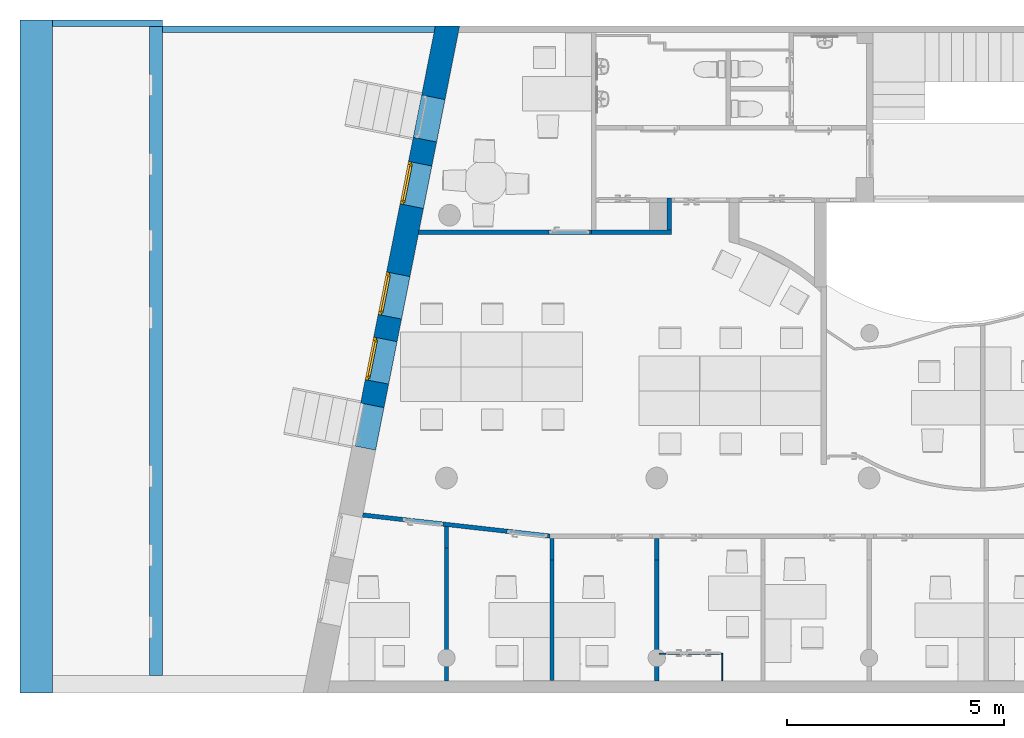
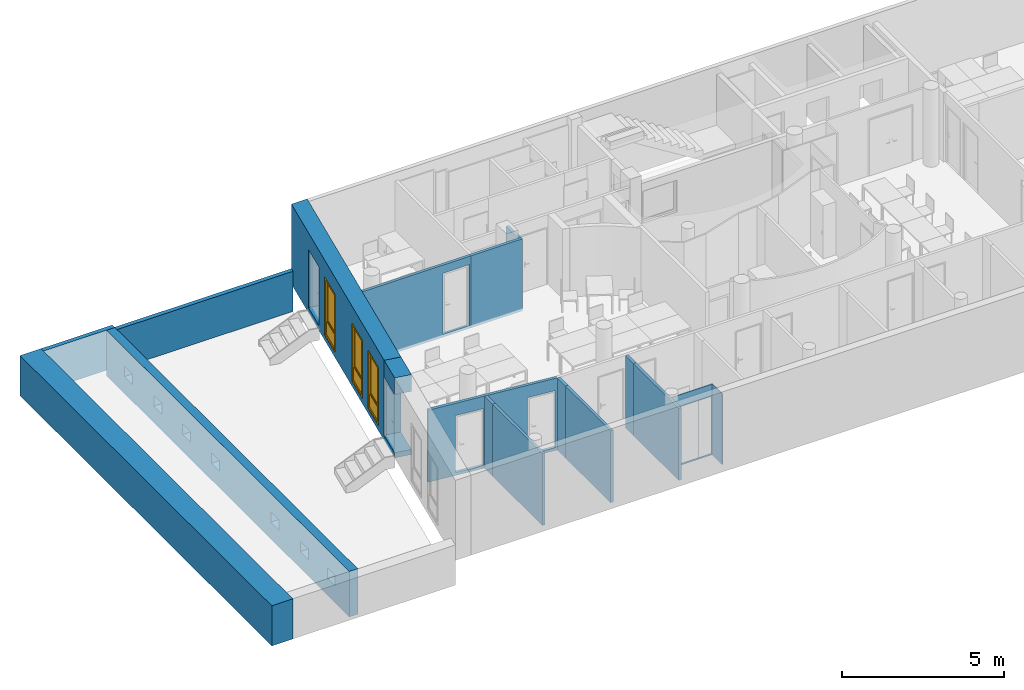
"""IFC4 building model written with IfcOpenShell, lengths in metres."""

from ifc_helpers import new_model, entity, si_unit, converted_unit, derived_unit, frame, frame_2d, origin, origin_with_axes, place, context, subcontext, project, spatial, polyline, rectangle, outline, extrude, closed_shell, open_shell, surface_model, source, transform, mapped, material, layer, layer_set, layer_usage, type_object, element, fill, save


model = new_model("IFC4")

# Units and contexts
model_context = context("Model", 3, precision=1e-05, world=origin())
body_context = subcontext(model_context, "Body", "Model", "MODEL_VIEW")
ifc_project = project(units=[si_unit("LENGTHUNIT", "METRE"), si_unit("AREAUNIT", "SQUARE_METRE"), si_unit("VOLUMEUNIT", "CUBIC_METRE"), si_unit("MASSUNIT", "GRAM", prefix="KILO"), converted_unit("PLANEANGLEUNIT", "DEGREE", entity("IfcPlaneAngleMeasure", 0.0174532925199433), si_unit("PLANEANGLEUNIT", "RADIAN"), dimensions=[0, 0, 0, 0, 0, 0, 0]), derived_unit("THERMALTRANSMITTANCEUNIT", [(si_unit("POWERUNIT", "WATT"), 1), (si_unit("THERMODYNAMICTEMPERATUREUNIT", "KELVIN"), -1), (si_unit("LENGTHUNIT", "METRE"), -2)]), derived_unit("VOLUMETRICFLOWRATEUNIT", [(si_unit("LENGTHUNIT", "METRE"), 3), (converted_unit("TIMEUNIT", "hour", entity("IfcTimeMeasure", 3600.0), si_unit("TIMEUNIT", "SECOND"), dimensions=[0, 0, 1, 0, 0, 0, 0]), -1), (si_unit("LENGTHUNIT", "METRE"), -1)])], contexts=[model_context])

# Building, storeys
building_placement = place(None, origin())
building = spatial("IfcBuilding", under=ifc_project, at=building_placement, Name="HABITATGE PLURIFAMILIAR", CompositionType="ELEMENT")
storey_1_placement = place(building_placement, frame((0.0, 0.0, 6.25)))
storey_1 = spatial("IfcBuildingStorey", under=building, at=storey_1_placement, Name="PLANTA PRIMERA", CompositionType="ELEMENT", Elevation=6.25)
storey_2_placement = place(storey_1_placement, frame((0.0, 0.0, 3.35)))
storey_2 = spatial("IfcBuildingStorey", under=storey_1, at=storey_2_placement, Name="NOU", CompositionType="PARTIAL")

# Walls
ifc_material_1 = material()
ifc_layer_1 = layer(ifc_material_1, 0.100000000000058)
ifc_layer_set_1 = layer_set([ifc_layer_1])
ifc_layer_usage_1 = layer_usage(ifc_layer_set_1, "AXIS2", "POSITIVE", 0.0)
wall_1_placement = place(storey_2_placement, frame((406.176984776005, 23.5194598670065, -3.45), z_axis=(0.0, 0.0, 1.0), x_axis=(0.0, 1.0, 0.0)))
element("IfcWall", 1, at=wall_1_placement, inside=storey_2, material=ifc_layer_usage_1, Name="Envans P1", context=body_context, shape_type="SweptSolid", body=[
    extrude(rectangle(XDim=0.737769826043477, YDim=0.100000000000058, at=frame_2d((0.368884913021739, 0.0500000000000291), x_axis=(1.0, 0.0))), origin_with_axes(), (0.0, 0.0, 1.0), 2.71),
])
ifc_material_2 = material()
ifc_layer_2 = layer(ifc_material_2, 0.1)
ifc_layer_set_2 = layer_set([ifc_layer_2])
ifc_layer_usage_2 = layer_usage(ifc_layer_set_2, "AXIS2", "POSITIVE", 0.0)
wall_2_placement = place(storey_2_placement, frame((404.336617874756, 23.4194598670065, -3.45)))
element("IfcWall", 2, at=wall_2_placement, inside=storey_2, material=ifc_layer_usage_2, Name="Envans P1", context=body_context, shape_type="SweptSolid", body=[
    extrude(rectangle(XDim=1.84036690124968, YDim=0.1, at=frame_2d((0.920183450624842, 0.05), x_axis=(1.0, 0.0))), origin_with_axes(), (0.0, 0.0, 1.0), 2.71),
])
ifc_material_3 = material()
ifc_layer_3 = layer(ifc_material_3, 0.75)
ifc_layer_set_3 = layer_set([ifc_layer_3])
ifc_layer_usage_3 = layer_usage(ifc_layer_set_3, "AXIS2", "POSITIVE", 0.0)
wall_3_placement = place(storey_2_placement, frame((391.149713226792, 28.3638565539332, -4.38), z_axis=(0.0, 0.0, 1.0), x_axis=(0.0, -1.0, 0.0)))
element("IfcWall", 3, at=wall_3_placement, inside=storey_2, material=ifc_layer_usage_3, Name="Envans P1", context=body_context, shape_type="SweptSolid", body=[
    extrude(rectangle(XDim=15.5232444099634, YDim=0.75, at=frame_2d((7.76162220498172, 0.375), x_axis=(1.0, 0.0))), origin_with_axes(), (0.0, 0.0, 1.0), 1.51),
])

# Wall, openings
ifc_material_4 = material()
ifc_layer_4 = layer(ifc_material_4, 0.3)
ifc_layer_set_4 = layer_set([ifc_layer_4])
ifc_layer_usage_4 = layer_usage(ifc_layer_set_4, "AXIS2", "POSITIVE", 0.0)
wall_4_placement = place(storey_2_placement, frame((394.139778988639, 28.2138565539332, -4.58), z_axis=(0.0, 0.0, 1.0), x_axis=(0.0, -1.0, 0.0)))
wall_4 = element("IfcWall", 4, at=wall_4_placement, inside=storey_2, material=ifc_layer_usage_4, Name="Envans P1", context=body_context, shape_type="SweptSolid", body=[
    extrude(rectangle(XDim=14.9732444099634, YDim=0.3, at=frame_2d((7.48662220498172, 0.15), x_axis=(1.0, 0.0))), origin_with_axes(), (0.0, 0.0, 1.0), 1.71),
])
opening_1_placement = place(wall_4_placement, frame((4.69138736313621, 0.0, 0.63), z_axis=(0.0, 1.0, 0.0), x_axis=(0.0, 0.0, 1.0)))
element("IfcOpeningElement", 5, at=opening_1_placement, cuts=wall_4, Name="Vano de Finestra P1", ObjectType="Opening", context=body_context, shape_type="SweptSolid", body=[
    extrude(outline(polyline([(0.4, 0.49), (0.4, 0.0), (0.0, 0.0), (0.0, 0.49), (0.4, 0.49)])), origin_with_axes(), (0.0, 0.0, 1.0), 0.3),
])
opening_2_placement = place(wall_4_placement, frame((2.93138736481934, 0.0, 0.63), z_axis=(0.0, 1.0, 0.0), x_axis=(0.0, 0.0, 1.0)))
element("IfcOpeningElement", 6, at=opening_2_placement, cuts=wall_4, Name="Vano de Finestra P1", ObjectType="Opening", context=body_context, shape_type="SweptSolid", body=[
    extrude(outline(polyline([(0.4, 0.49), (0.4, 0.0), (0.0, 0.0), (0.0, 0.49), (0.4, 0.49)])), origin_with_axes(), (0.0, 0.0, 1.0), 0.3),
])
opening_3_placement = place(wall_4_placement, frame((6.47138736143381, 0.0, 0.63), z_axis=(0.0, 1.0, 0.0), x_axis=(0.0, 0.0, 1.0)))
element("IfcOpeningElement", 7, at=opening_3_placement, cuts=wall_4, Name="Vano de Finestra P1", ObjectType="Opening", context=body_context, shape_type="SweptSolid", body=[
    extrude(outline(polyline([(0.4, 0.49), (0.4, 0.0), (0.0, 0.0), (0.0, 0.49), (0.4, 0.49)])), origin_with_axes(), (0.0, 0.0, 1.0), 0.3),
])
opening_4_placement = place(wall_4_placement, frame((1.10138736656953, 0.0, 0.63), z_axis=(0.0, 1.0, 0.0), x_axis=(0.0, 0.0, 1.0)))
element("IfcOpeningElement", 8, at=opening_4_placement, cuts=wall_4, Name="Vano de Finestra P1", ObjectType="Opening", context=body_context, shape_type="SweptSolid", body=[
    extrude(outline(polyline([(0.4, 0.49), (0.4, 0.0), (0.0, 0.0), (0.0, 0.49), (0.4, 0.49)])), origin_with_axes(), (0.0, 0.0, 1.0), 0.3),
])
opening_5_placement = place(wall_4_placement, frame((10.1313873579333, 0.0, 0.63), z_axis=(0.0, 1.0, 0.0), x_axis=(0.0, 0.0, 1.0)))
element("IfcOpeningElement", 9, at=opening_5_placement, cuts=wall_4, Name="Vano de Finestra P1", ObjectType="Opening", context=body_context, shape_type="SweptSolid", body=[
    extrude(outline(polyline([(0.4, 0.49), (0.4, 0.0), (0.0, 0.0), (0.0, 0.49), (0.4, 0.49)])), origin_with_axes(), (0.0, 0.0, 1.0), 0.3),
])
opening_6_placement = place(wall_4_placement, frame((11.9520491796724, 0.0, 0.63), z_axis=(0.0, 1.0, 0.0), x_axis=(0.0, 0.0, 1.0)))
element("IfcOpeningElement", 10, at=opening_6_placement, cuts=wall_4, Name="Vano de Finestra P1", ObjectType="Opening", context=body_context, shape_type="SweptSolid", body=[
    extrude(outline(polyline([(0.4, 0.49), (0.4, 0.0), (0.0, 0.0), (0.0, 0.49), (0.4, 0.49)])), origin_with_axes(), (0.0, 0.0, 1.0), 0.3),
])
opening_7_placement = place(wall_4_placement, frame((13.6120491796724, 0.0, 0.63), z_axis=(0.0, 1.0, 0.0), x_axis=(0.0, 0.0, 1.0)))
element("IfcOpeningElement", 11, at=opening_7_placement, cuts=wall_4, Name="Vano de Finestra P1", ObjectType="Opening", context=body_context, shape_type="SweptSolid", body=[
    extrude(outline(polyline([(0.4, 0.49), (0.4, 0.0), (0.0, 0.0), (0.0, 0.49), (0.4, 0.49)])), origin_with_axes(), (0.0, 0.0, 1.0), 0.3),
])

# Walls
ifc_material_5 = material()
ifc_layer_5 = layer(ifc_material_5, 0.15)
ifc_layer_set_5 = layer_set([ifc_layer_5])
ifc_layer_usage_5 = layer_usage(ifc_layer_set_5, "AXIS2", "POSITIVE", 0.0)
wall_5_placement = place(storey_2_placement, frame((391.899713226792, 28.2138565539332, -4.38)))
element("IfcWall", 12, at=wall_5_placement, inside=storey_2, material=ifc_layer_usage_5, Name="Envans P1", context=body_context, shape_type="SweptSolid", body=[
    extrude(rectangle(XDim=2.54006576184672, YDim=0.15, at=frame_2d((1.27003288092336, 0.075), x_axis=(1.0, 0.0))), origin_with_axes(), (0.0, 0.0, 1.0), 1.51),
])
ifc_material_6 = material()
ifc_layer_6 = layer(ifc_material_6, 0.15)
ifc_layer_set_6 = layer_set([ifc_layer_6])
ifc_layer_usage_6 = layer_usage(ifc_layer_set_6, "AXIS2", "POSITIVE", 0.0)
wall_6_placement = place(storey_2_placement, frame((400.729735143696, 28.22824790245, -4.38), z_axis=(0.0, 0.0, 1.0), x_axis=(-1.0, 0.0, 0.0)))
element("IfcWall", 13, at=wall_6_placement, inside=storey_2, material=ifc_layer_usage_6, Name="Envans P1", context=body_context, shape_type="SweptSolid", body=[
    extrude(outline(polyline([(-6.28995615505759, -0.15), (0.0, -0.15), (0.0, 0.0), (-6.26023727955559, 0.0), (-6.28995615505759, -0.15)])), frame((6.28995615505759, 0.15, 0.0), z_axis=(0.0, 0.0, 1.0), x_axis=(1.0, 0.0, 0.0)), (0.0, 0.0, 1.0), 1.51),
])

# Wall, openings, doors
ifc_material_7 = material()
ifc_layer_7 = layer(ifc_material_7, 0.549999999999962)
ifc_layer_set_7 = layer_set([ifc_layer_7])
ifc_layer_usage_7 = layer_usage(ifc_layer_set_7, "AXIS2", "POSITIVE", 0.0)
wall_7_placement = place(storey_2_placement, frame((400.729735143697, 28.22824790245, -3.45), z_axis=(0.0, 0.0, 1.0), x_axis=(-0.194348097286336, -0.980932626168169, 0.0)))
wall_7 = element("IfcWall", 14, at=wall_7_placement, inside=storey_2, material=ifc_layer_usage_7, Name="Façana nord-oest P1", context=body_context, shape_type="SweptSolid", body=[
    extrude(outline(polyline([(-8.97166570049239, -0.0207741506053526), (-0.104853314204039, -0.0207741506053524), (-0.104853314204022, 0.52922584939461), (-9.08063491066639, 0.529225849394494), (-8.97166570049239, -0.0207741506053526)])), frame((8.97166570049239, 0.0207741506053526, 0.0), z_axis=(0.0, 0.0, 1.0), x_axis=(1.0, 0.0, 0.0)), (0.0, 0.0, 1.0), 3.01),
])
opening_8_placement = place(wall_7_placement, frame((5.78586367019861, 0.0, 0.19), z_axis=(-2.14971474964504e-14, 1.0, 0.0), x_axis=(0.0, 0.0, 1.0)))
opening_8 = element("IfcOpeningElement", 15, at=opening_8_placement, cuts=wall_7, Name="Vano de Finestra P1", ObjectType="Opening", context=body_context, shape_type="SweptSolid", body=[
    extrude(outline(polyline([(2.19, 0.999999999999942), (2.19, 0.0), (0.0, 0.0), (0.0, 0.999999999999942), (2.19, 0.999999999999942)])), origin_with_axes(), (0.0, 0.0, 1.0), 0.550000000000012),
])
opening_9_placement = place(wall_7_placement, frame((3.18586367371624, 0.0, 0.19), z_axis=(1.9016707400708e-14, 1.0, 0.0), x_axis=(0.0, 0.0, 1.0)))
opening_9 = element("IfcOpeningElement", 16, at=opening_9_placement, cuts=wall_7, Name="Vano de Finestra P1", ObjectType="Opening", context=body_context, shape_type="SweptSolid", body=[
    extrude(outline(polyline([(2.19, 1.00000000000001), (2.19, 0.0), (0.0, 0.0), (0.0, 1.00000000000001), (2.19, 1.00000000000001)])), origin_with_axes(), (0.0, 0.0, 1.0), 0.549999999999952),
])
opening_10_placement = place(wall_7_placement, frame((7.31681238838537, 0.0, 0.19), z_axis=(-2.14971474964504e-14, 1.0, 0.0), x_axis=(0.0, 0.0, 1.0)))
opening_10 = element("IfcOpeningElement", 17, at=opening_10_placement, cuts=wall_7, Name="Vano de Finestra P1", ObjectType="Opening", context=body_context, shape_type="SweptSolid", body=[
    extrude(outline(polyline([(2.19, 0.999999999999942), (2.19, 0.0), (0.0, 0.0), (0.0, 0.999999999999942), (2.19, 0.999999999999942)])), origin_with_axes(), (0.0, 0.0, 1.0), 0.550000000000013),
])
opening_11_placement = place(wall_7_placement, frame((1.62283528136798, 0.0, 0.19), z_axis=(7.85472696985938e-15, 1.0, 0.0), x_axis=(0.0, 0.0, 1.0)))
element("IfcOpeningElement", 18, at=opening_11_placement, cuts=wall_7, Name="Vano de puerta P1", ObjectType="Opening", context=body_context, shape_type="SweptSolid", body=[
    extrude(outline(polyline([(2.19, 0.999036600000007), (2.19, 0.0), (0.0, 0.0), (0.0, 0.999036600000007), (2.19, 0.999036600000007)])), origin_with_axes(), (0.0, 0.0, 1.0), 0.549999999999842),
])
door_type_1 = type_object("IfcDoorType", Name="Finestra P1", OperationType="NOTDEFINED", ParameterTakesPrecedence=False, PredefinedType="DOOR")
shared_shape = source(origin_with_axes(), body_context, "Body", "SurfaceModel", [
    surface_model("IfcShellBasedSurfaceModel", [(0.0, 0.0700000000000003, 2.19), (0.0, 0.07, 0.0), (0.07, 0.07, 0.0), (0.07, 0.0700000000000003, 2.19), (0.0, 0.0, 0.0), (0.0, 0.0, 2.19), (0.07, 0.0, 2.19), (0.07, 0.0, 0.0)], [closed_shell([[[0, 1, 2, 3]], [[4, 5, 6, 7]], [[1, 0, 5, 4]], [[2, 1, 4, 7]], [[3, 2, 7, 6]], [[0, 3, 6, 5]]], orient=[[False], [False], [False], [False], [False], [False]])]),
    surface_model("IfcShellBasedSurfaceModel", [(0.929999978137, 0.0700000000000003, 2.19), (0.929999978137, 0.07, 0.0), (0.999999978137, 0.07, 0.0), (0.999999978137, 0.0700000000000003, 2.19), (0.929999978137, 0.0, 0.0), (0.929999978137, 0.0, 2.19), (0.999999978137, 0.0, 2.19), (0.999999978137, 0.0, 0.0)], [closed_shell([[[0, 1, 2, 3]], [[4, 5, 6, 7]], [[1, 0, 5, 4]], [[2, 1, 4, 7]], [[3, 2, 7, 6]], [[0, 3, 6, 5]]], orient=[[False], [False], [False], [False], [False], [False]])]),
    surface_model("IfcShellBasedSurfaceModel", [(0.07, 0.07, 0.07), (0.07, 0.07, 0.0), (0.929999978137, 0.07, 0.0), (0.929999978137, 0.07, 0.07), (0.07, 0.0, 0.0), (0.07, 0.0, 0.07), (0.929999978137, 0.0, 0.07), (0.929999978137, 0.0, 0.0)], [closed_shell([[[0, 1, 2, 3]], [[4, 5, 6, 7]], [[1, 0, 5, 4]], [[2, 1, 4, 7]], [[3, 2, 7, 6]], [[0, 3, 6, 5]]], orient=[[False], [False], [False], [False], [False], [False]])]),
    surface_model("IfcShellBasedSurfaceModel", [(0.07, 0.0700000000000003, 2.19), (0.07, 0.0700000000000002, 2.12), (0.929999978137, 0.0700000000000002, 2.12), (0.929999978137, 0.0700000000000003, 2.19), (0.07, 0.0, 2.12), (0.07, 0.0, 2.19), (0.929999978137, 0.0, 2.19), (0.929999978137, 0.0, 2.12)], [closed_shell([[[0, 1, 2, 3]], [[4, 5, 6, 7]], [[1, 0, 5, 4]], [[2, 1, 4, 7]], [[3, 2, 7, 6]], [[0, 3, 6, 5]]], orient=[[False], [False], [False], [False], [False], [False]])]),
    surface_model("IfcShellBasedSurfaceModel", [(0.07, 0.035, 0.07), (0.929999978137, 0.035, 0.07), (0.929999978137, 0.0350000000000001, 0.57), (0.07, 0.0350000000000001, 0.57)], [open_shell([[[0, 1, 2, 3]]], orient=[[False]])]),
    surface_model("IfcShellBasedSurfaceModel", [(0.05, 0.1, 2.14), (0.05, 0.1, 0.551), (0.1, 0.1, 0.551), (0.1, 0.1, 2.14), (0.05, 0.0500000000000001, 0.551), (0.05, 0.0500000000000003, 2.14), (0.1, 0.0500000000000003, 2.14), (0.1, 0.0500000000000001, 0.551)], [closed_shell([[[0, 1, 2, 3]], [[4, 5, 6, 7]], [[1, 0, 5, 4]], [[2, 1, 4, 7]], [[3, 2, 7, 6]], [[0, 3, 6, 5]]], orient=[[False], [False], [False], [False], [False], [False]])]),
    surface_model("IfcShellBasedSurfaceModel", [(0.899999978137, 0.1, 2.14), (0.899999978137, 0.1, 0.551), (0.949999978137, 0.1, 0.551), (0.949999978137, 0.1, 2.14), (0.899999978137, 0.0500000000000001, 0.551), (0.899999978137, 0.0500000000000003, 2.14), (0.949999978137, 0.0500000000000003, 2.14), (0.949999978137, 0.0500000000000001, 0.551)], [closed_shell([[[0, 1, 2, 3]], [[4, 5, 6, 7]], [[1, 0, 5, 4]], [[2, 1, 4, 7]], [[3, 2, 7, 6]], [[0, 3, 6, 5]]], orient=[[False], [False], [False], [False], [False], [False]])]),
    surface_model("IfcShellBasedSurfaceModel", [(0.1, 0.1, 0.601), (0.1, 0.1, 0.551), (0.899999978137, 0.1, 0.551), (0.899999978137, 0.1, 0.601), (0.1, 0.0500000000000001, 0.551), (0.1, 0.0500000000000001, 0.601), (0.899999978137, 0.0500000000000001, 0.601), (0.899999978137, 0.0500000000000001, 0.551)], [closed_shell([[[0, 1, 2, 3]], [[4, 5, 6, 7]], [[1, 0, 5, 4]], [[2, 1, 4, 7]], [[3, 2, 7, 6]], [[0, 3, 6, 5]]], orient=[[False], [False], [False], [False], [False], [False]])]),
    surface_model("IfcShellBasedSurfaceModel", [(0.1, 0.1, 2.14), (0.1, 0.1, 2.09), (0.899999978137, 0.1, 2.09), (0.899999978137, 0.1, 2.14), (0.1, 0.0500000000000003, 2.09), (0.1, 0.0500000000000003, 2.14), (0.899999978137, 0.0500000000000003, 2.14), (0.899999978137, 0.0500000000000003, 2.09)], [closed_shell([[[0, 1, 2, 3]], [[4, 5, 6, 7]], [[1, 0, 5, 4]], [[2, 1, 4, 7]], [[3, 2, 7, 6]], [[0, 3, 6, 5]]], orient=[[False], [False], [False], [False], [False], [False]])]),
    surface_model("IfcShellBasedSurfaceModel", [(0.1, 0.0750000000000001, 0.601), (0.899999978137, 0.0750000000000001, 0.601), (0.899999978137, 0.0750000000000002, 2.09), (0.1, 0.0750000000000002, 2.09)], [open_shell([[[0, 1, 2, 3]]], orient=[[False]])]),
])
door_1_placement = place(opening_8_placement, frame((0.0, 0.0, 0.0), z_axis=(1.0, 0.0, 0.0), x_axis=(0.0, 1.000000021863, -4.6296300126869e-14)))
door_1 = element("IfcDoor", 19, at=door_1_placement, inside=storey_2, type_object=door_type_1, Name="Finestra P1", OverallHeight=2.19, OverallWidth=1.0, context=body_context, shape_type="MappedRepresentation", body=[
    mapped(shared_shape, transform((0.0, 0.0, 0.0), x_axis=(1.0, 0.0, 0.0), y_axis=(0.0, 1.0, 0.0), z_axis=(0.0, 0.0, 1.0), scale=1.000000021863)),
])
fill(opening_8, door_1)
door_type_2 = type_object("IfcDoorType", Name="Finestra P1", OperationType="NOTDEFINED", ParameterTakesPrecedence=False, PredefinedType="DOOR")
door_2_placement = place(opening_9_placement, frame((0.0, 0.0, 0.0), z_axis=(1.0, 0.0, 0.0), x_axis=(0.0, 1.00000002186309, 6.21724893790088e-15)))
door_2 = element("IfcDoor", 20, at=door_2_placement, inside=storey_2, type_object=door_type_2, Name="Finestra P1", OverallHeight=2.19, OverallWidth=1.0, context=body_context, shape_type="MappedRepresentation", body=[
    mapped(shared_shape, transform((0.0, 0.0, 0.0), x_axis=(1.0, 0.0, 0.0), y_axis=(0.0, 1.0, 0.0), z_axis=(0.0, 0.0, 1.0), scale=1.00000002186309)),
])
fill(opening_9, door_2)
door_type_3 = type_object("IfcDoorType", Name="Finestra P1", OperationType="NOTDEFINED", ParameterTakesPrecedence=False, PredefinedType="DOOR")
door_3_placement = place(opening_10_placement, frame((0.0, 0.0, 0.0), z_axis=(1.0, 0.0, 0.0), x_axis=(0.0, 1.000000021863, -4.6296300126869e-14)))
door_3 = element("IfcDoor", 21, at=door_3_placement, inside=storey_2, type_object=door_type_3, Name="Finestra P1", OverallHeight=2.19, OverallWidth=1.0, context=body_context, shape_type="MappedRepresentation", body=[
    mapped(shared_shape, transform((0.0, 0.0, 0.0), x_axis=(1.0, 0.0, 0.0), y_axis=(0.0, 1.0, 0.0), z_axis=(0.0, 0.0, 1.0), scale=1.000000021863)),
])
fill(opening_10, door_3)

# Wall, opening
ifc_material_8 = material()
ifc_layer_8 = layer(ifc_material_8, 0.1)
ifc_layer_set_8 = layer_set([ifc_layer_8])
ifc_layer_usage_8 = layer_usage(ifc_layer_set_8, "AXIS2", "POSITIVE", 0.0)
wall_8_placement = place(storey_2_placement, frame((400.33768089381, 23.4194598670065, -3.45)))
wall_8 = element("IfcWall", 22, at=wall_8_placement, inside=storey_2, material=ifc_layer_usage_8, Name="Mampara P1", context=body_context, shape_type="SweptSolid", body=[
    extrude(rectangle(XDim=3.99893698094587, YDim=0.1, at=frame_2d((1.99946849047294, 0.05), x_axis=(1.0, 0.0))), origin_with_axes(), (0.0, 0.0, 1.0), 2.71),
])
opening_12_placement = place(wall_8_placement, frame((3.94893698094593, 0.1, 0.1), z_axis=(0.0, -1.0, 0.0), x_axis=(0.0, 0.0, 1.0)))
element("IfcOpeningElement", 23, at=opening_12_placement, cuts=wall_8, Name="Vano de puerta P1", ObjectType="Opening", context=body_context, shape_type="SweptSolid", body=[
    extrude(outline(polyline([(2.3, 0.94), (2.3, 0.0), (0.0, 0.0), (0.0, 0.94), (2.3, 0.94)])), origin_with_axes(), (0.0, 0.0, 1.0), 0.1),
])

# Walls
ifc_material_9 = material()
ifc_layer_9 = layer(ifc_material_9, 0.1)
ifc_layer_set_9 = layer_set([ifc_layer_9])
ifc_layer_usage_9 = layer_usage(ifc_layer_set_9, "AXIS2", "POSITIVE", 0.0)
wall_9_placement = place(storey_2_placement, frame((400.935985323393, 16.1835927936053, -3.45), z_axis=(0.0, 0.0, 1.0), x_axis=(0.0, -1.0, 0.0)))
element("IfcWall", 24, at=wall_9_placement, inside=storey_2, material=ifc_layer_usage_9, Name="Envans P1", context=body_context, shape_type="SweptSolid", body=[
    extrude(rectangle(XDim=3.06298064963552, YDim=0.1, at=frame_2d((1.53149032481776, 0.05), x_axis=(1.0, 0.0))), origin_with_axes(), (0.0, 0.0, 1.0), 2.71),
])
ifc_material_10 = material()
ifc_layer_10 = layer(ifc_material_10, 0.1)
ifc_layer_set_10 = layer_set([ifc_layer_10])
ifc_layer_usage_10 = layer_usage(ifc_layer_set_10, "AXIS2", "POSITIVE", 0.0)
wall_10_placement = place(storey_2_placement, frame((400.935985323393, 16.6835927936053, -3.45), z_axis=(0.0, 0.0, 1.0), x_axis=(0.0, -1.0, 0.0)))
element("IfcWall", 25, at=wall_10_placement, inside=storey_2, material=ifc_layer_usage_10, Name="Mampara P1", context=body_context, shape_type="SweptSolid", body=[
    extrude(outline(polyline([(-0.5, 0.0), (0.0, 0.0), (0.0, 0.1), (-0.48873541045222, 0.1), (-0.5, 0.0)])), frame((0.5, 0.0, 0.0), z_axis=(0.0, 0.0, 1.0), x_axis=(1.0, 0.0, 0.0)), (0.0, 0.0, 1.0), 2.71),
])
ifc_material_11 = material()
ifc_layer_11 = layer(ifc_material_11, 0.1)
ifc_layer_set_11 = layer_set([ifc_layer_11])
ifc_layer_usage_11 = layer_usage(ifc_layer_set_11, "AXIS2", "POSITIVE", 0.0)
wall_11_placement = place(storey_2_placement, frame((403.369566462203, 15.9094598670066, -3.45), z_axis=(0.0, 0.0, 1.0), x_axis=(0.0, -1.0, 0.0)))
element("IfcWall", 26, at=wall_11_placement, inside=storey_2, material=ifc_layer_usage_11, Name="Envans P1", context=body_context, shape_type="SweptSolid", body=[
    extrude(rectangle(XDim=2.78576683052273, YDim=0.1, at=frame_2d((1.39288341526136, 0.05), x_axis=(1.0, 0.0))), origin_with_axes(), (0.0, 0.0, 1.0), 2.71),
])
ifc_material_12 = material()
ifc_layer_12 = layer(ifc_material_12, 0.1)
ifc_layer_set_12 = layer_set([ifc_layer_12])
ifc_layer_usage_12 = layer_usage(ifc_layer_set_12, "AXIS2", "POSITIVE", 0.0)
wall_12_placement = place(storey_2_placement, frame((405.787197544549, 15.9094598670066, -3.45), z_axis=(0.0, 0.0, 1.0), x_axis=(0.0, -1.0, 0.0)))
element("IfcWall", 27, at=wall_12_placement, inside=storey_2, material=ifc_layer_usage_12, Name="Envans P1", context=body_context, shape_type="SweptSolid", body=[
    extrude(rectangle(XDim=2.78884772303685, YDim=0.1, at=frame_2d((1.39442386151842, 0.05), x_axis=(1.0, 0.0))), origin_with_axes(), (0.0, 0.0, 1.0), 2.71),
])
ifc_material_13 = material()
ifc_layer_13 = layer(ifc_material_13, 0.1)
ifc_layer_set_13 = layer_set([ifc_layer_13])
ifc_layer_usage_13 = layer_usage(ifc_layer_set_13, "AXIS2", "POSITIVE", 0.0)
wall_13_placement = place(storey_2_placement, frame((403.369566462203, 16.4094598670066, -3.45), z_axis=(0.0, 0.0, 1.0), x_axis=(0.0, -1.0, 0.0)))
element("IfcWall", 28, at=wall_13_placement, inside=storey_2, material=ifc_layer_usage_13, Name="Mampara P1", context=body_context, shape_type="SweptSolid", body=[
    extrude(outline(polyline([(-0.5, 0.0), (0.0, 0.0), (0.0, 0.1), (-0.500000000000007, 0.1), (-0.500000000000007, 0.0182095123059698), (-0.499778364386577, 0.0201861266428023), (-0.5, 0.0)])), frame((0.5, 0.0, 0.0), z_axis=(0.0, 0.0, 1.0), x_axis=(1.0, 0.0, 0.0)), (0.0, 0.0, 1.0), 2.71),
])
ifc_material_14 = material()
ifc_layer_14 = layer(ifc_material_14, 0.1)
ifc_layer_set_14 = layer_set([ifc_layer_14])
ifc_layer_usage_14 = layer_usage(ifc_layer_set_14, "AXIS2", "POSITIVE", 0.0)
wall_14_placement = place(storey_2_placement, frame((405.787197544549, 16.4094598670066, -3.45), z_axis=(0.0, 0.0, 1.0), x_axis=(0.0, -1.0, 0.0)))
element("IfcWall", 29, at=wall_14_placement, inside=storey_2, material=ifc_layer_usage_14, Name="Mampara P1", context=body_context, shape_type="SweptSolid", body=[
    extrude(rectangle(XDim=0.5, YDim=0.1, at=frame_2d((0.25, 0.05), x_axis=(1.0, 0.0))), origin_with_axes(), (0.0, 0.0, 1.0), 2.71),
])
ifc_material_15 = material()
ifc_layer_15 = layer(ifc_material_15, 0.025)
ifc_layer_set_15 = layer_set([ifc_layer_15])
ifc_layer_usage_15 = layer_usage(ifc_layer_set_15, "AXIS2", "POSITIVE", 0.0)
wall_15_placement = place(storey_2_placement, frame((407.361610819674, 13.1206121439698, -3.4), z_axis=(0.0, 0.0, 1.0), x_axis=(0.0, 1.0, 0.0)))
element("IfcWall", 30, at=wall_15_placement, inside=storey_2, material=ifc_layer_usage_15, Name="Evans PA", context=body_context, shape_type="SweptSolid", body=[
    extrude(rectangle(XDim=0.612524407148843, YDim=0.025, at=frame_2d((0.306262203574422, 0.0125), x_axis=(1.0, 0.0))), origin_with_axes(), (0.0, 0.0, 1.0), 2.66),
])

# Wall, openings
ifc_material_16 = material()
ifc_layer_16 = layer(ifc_material_16, 0.03)
ifc_layer_set_16 = layer_set([ifc_layer_16])
ifc_layer_usage_16 = layer_usage(ifc_layer_set_16, "AXIS2", "POSITIVE", 0.0)
wall_16_placement = place(storey_2_placement, frame((407.361610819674, 13.7631365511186, -3.4), z_axis=(0.0, 0.0, 1.0), x_axis=(-1.0, 0.0, 0.0)))
wall_16 = element("IfcWall", 31, at=wall_16_placement, inside=storey_2, material=ifc_layer_usage_16, Name="Evans PA", context=body_context, shape_type="SweptSolid", body=[
    extrude(rectangle(XDim=1.4727305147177, YDim=0.03, at=frame_2d((0.736365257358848, 0.015), x_axis=(1.0, 0.0))), origin_with_axes(), (0.0, 0.0, 1.0), 2.66),
])
opening_13_placement = place(wall_16_placement, frame((0.487834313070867, 0.0, 0.05), z_axis=(0.0, 1.0, 0.0), x_axis=(0.0, 0.0, 1.0)))
element("IfcOpeningElement", 32, at=opening_13_placement, cuts=wall_16, Name="Vano de puerta PA", ObjectType="Opening", context=body_context, shape_type="SweptSolid", body=[
    extrude(outline(polyline([(2.15, 0.822674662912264), (2.15, 0.0), (0.0, 0.0), (0.0, 0.822674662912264), (2.15, 0.822674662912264)])), origin_with_axes(), (0.0, 0.0, 1.0), 0.03),
])
opening_14_placement = place(wall_16_placement, frame((0.0452878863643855, 0.0, 0.05), z_axis=(0.0, 1.0, 0.0), x_axis=(0.0, 0.0, 1.0)))
element("IfcOpeningElement", 33, at=opening_14_placement, cuts=wall_16, Name="Vano de puerta PA", ObjectType="Opening", context=body_context, shape_type="SweptSolid", body=[
    extrude(outline(polyline([(2.15, 0.441930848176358), (2.15, 0.0), (0.0, 0.0), (0.0, 0.441930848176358), (2.15, 0.441930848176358)])), origin_with_axes(), (0.0, 0.0, 1.0), 0.03),
])

# Wall, opening
ifc_material_17 = material()
ifc_layer_17 = layer(ifc_material_17, 0.549999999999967)
ifc_layer_set_17 = layer_set([ifc_layer_17])
ifc_layer_usage_17 = layer_usage(ifc_layer_set_17, "AXIS2", "POSITIVE", 0.0)
wall_17_placement = place(storey_2_placement, frame((399.006487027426, 19.5305023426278, -3.45), z_axis=(0.0, 0.0, 1.0), x_axis=(-0.194348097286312, -0.980932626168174, 0.0)))
wall_17 = element("IfcWall", 34, at=wall_17_placement, inside=storey_2, material=ifc_layer_usage_17, Name="Façana nord-oest P1", context=body_context, shape_type="SweptSolid", body=[
    extrude(rectangle(XDim=0.999999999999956, YDim=0.549999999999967, at=frame_2d((0.499999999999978, 0.274999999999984), x_axis=(1.0, 0.0))), origin_with_axes(), (0.0, 0.0, 1.0), 3.01),
])
opening_15_placement = place(wall_17_placement, frame((0.0, 0.0, 0.19), z_axis=(4.26325641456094e-15, 1.0, 0.0), x_axis=(0.0, 0.0, 1.0)))
element("IfcOpeningElement", 35, at=opening_15_placement, cuts=wall_17, Name="Vano de Finestra P1", ObjectType="Opening", context=body_context, shape_type="SweptSolid", body=[
    extrude(outline(polyline([(2.19, 0.999999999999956), (2.19, 0.0), (0.0, 0.0), (0.0, 0.999999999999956), (2.19, 0.999999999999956)])), origin_with_axes(), (0.0, 0.0, 1.0), 0.549999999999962),
])

# Wall, openings
ifc_material_18 = material()
ifc_layer_18 = layer(ifc_material_18, 0.100000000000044)
ifc_layer_set_18 = layer_set([ifc_layer_18])
ifc_layer_usage_18 = layer_usage(ifc_layer_set_18, "AXIS2", "POSITIVE", 0.0)
wall_18_placement = place(storey_2_placement, frame((403.375181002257, 16.5094598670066, -3.45), z_axis=(0.0, 0.0, 1.0), x_axis=(-0.993715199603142, 0.111937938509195, 0.0)))
wall_18 = element("IfcWall", 36, at=wall_18_placement, inside=storey_2, material=ifc_layer_usage_18, Name="Mampara P1", context=body_context, shape_type="SweptSolid", body=[
    extrude(outline(polyline([(-4.29149829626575, -0.584052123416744), (0.0461136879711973, -0.584052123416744), (0.0545264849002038, -0.484052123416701), (-4.29711283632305, -0.48405212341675), (-4.29149829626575, -0.584052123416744)])), frame((4.29149829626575, 0.584052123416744, 0.0), z_axis=(0.0, 0.0, 1.0), x_axis=(1.0, 0.0, 0.0)), (0.0, 0.0, 1.0), 2.71),
])
opening_16_placement = place(wall_18_placement, frame((0.0500000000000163, 0.0, 0.1), z_axis=(-2.57500687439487e-13, 1.0, 0.0), x_axis=(0.0, 0.0, 1.0)))
element("IfcOpeningElement", 37, at=opening_16_placement, cuts=wall_18, Name="Vano de puerta P1", ObjectType="Opening", context=body_context, shape_type="SweptSolid", body=[
    extrude(outline(polyline([(2.15, 0.94), (2.15, 0.0), (0.0, 0.0), (0.0, 0.94), (2.15, 0.94)])), origin_with_axes(), (0.0, 0.0, 1.0), 0.0999999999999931),
])
opening_17_placement = place(wall_18_placement, frame((2.47503778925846, 0.0, 0.1), z_axis=(-2.81943357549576e-13, 1.0, 0.0), x_axis=(0.0, 0.0, 1.0)))
element("IfcOpeningElement", 38, at=opening_17_placement, cuts=wall_18, Name="Vano de puerta P1", ObjectType="Opening", context=body_context, shape_type="SweptSolid", body=[
    extrude(outline(polyline([(2.15, 0.94), (2.15, 0.0), (0.0, 0.0), (0.0, 0.94), (2.15, 0.94)])), origin_with_axes(), (0.0, 0.0, 1.0), 0.100000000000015),
])

save(model, "model.ifc")
